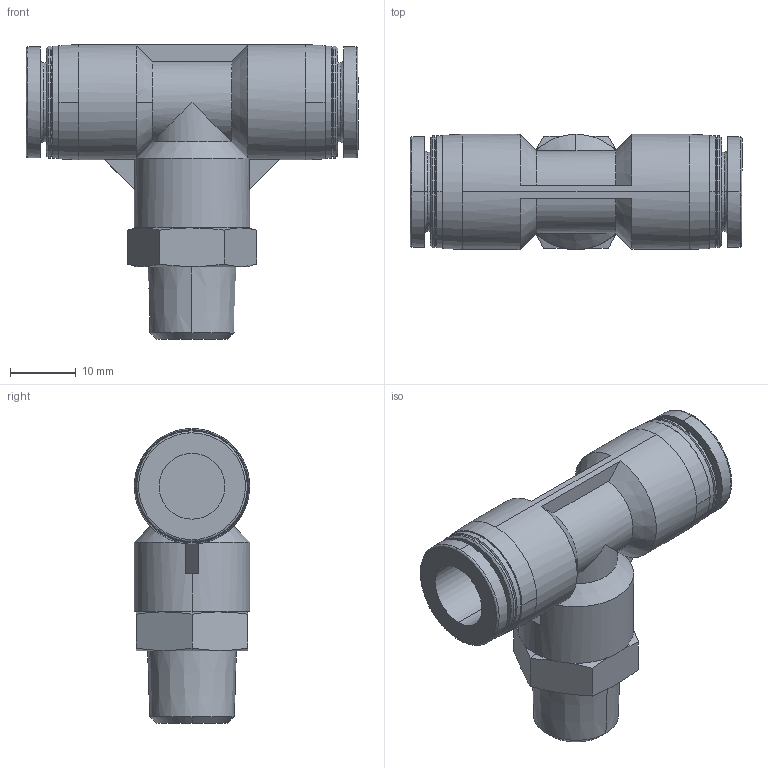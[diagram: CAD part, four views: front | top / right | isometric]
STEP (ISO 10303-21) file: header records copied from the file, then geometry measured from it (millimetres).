
FILE_DESCRIPTION (( 'STEP AP214' ), '1' );
FILE_NAME ('APT10-02.STEP', '2019-12-05T08:38:30', ( '微软用户' ), ( '微软中国' ), 'SwSTEP 2.0', 'SolidWorks 2016', '' );
FILE_SCHEMA (( 'AUTOMOTIVE_DESIGN' ));
Length unit declared in the file: millimetre
Products named in the file (1): APT10-02
Bounding box: 50.4 x 17.5 x 44.75 mm (x, y, z)
Volume: 12953.4 mm3; surface area: 6521.4 mm2
Topology: 1 solids, 1 shells, 100 faces, 242 edges, 154 vertices
Faces by surface type: cone 37, cylinder 28, plane 27, bspline 8
Entity records: 3480 total; most frequent: CARTESIAN_POINT 1149, DIRECTION 496, ORIENTED_EDGE 484, EDGE_CURVE 242, AXIS2_PLACEMENT_3D 209, VERTEX_POINT 154, CIRCLE 116, EDGE_LOOP 110
